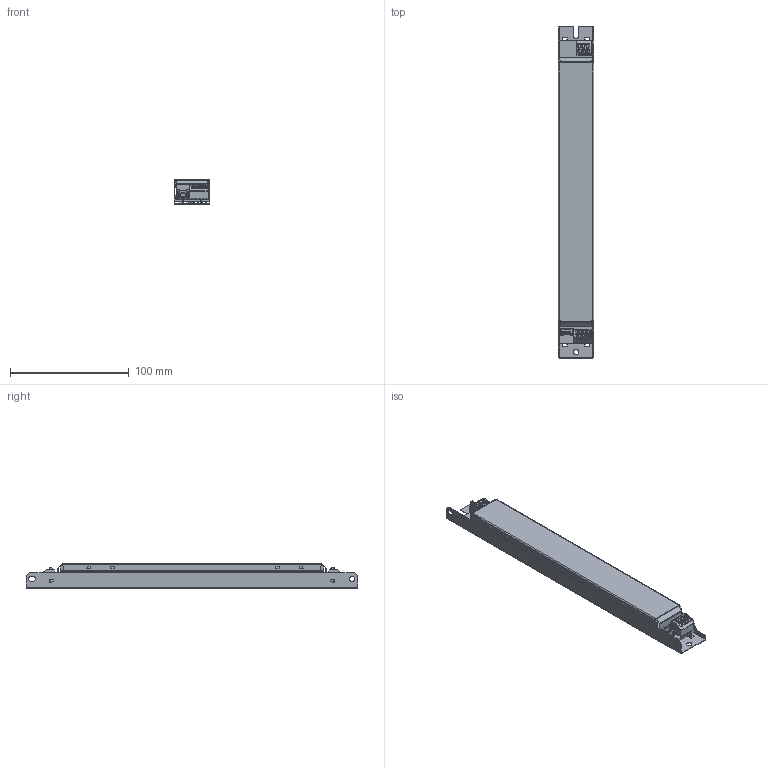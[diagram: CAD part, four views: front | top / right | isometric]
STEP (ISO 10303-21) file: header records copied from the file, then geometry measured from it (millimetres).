
FILE_DESCRIPTION(('FreeCAD Model'),'2;1');
FILE_NAME('H:/EB product maintenance/Project/3D mechanics/3D models Kari/Freedom/LL10-42 T5810/LL10-42-FD-120-350_.STEP', '2020-10-29T06:32:27',('Author'),(''), 'Open CASCADE STEP processor 7.3','FreeCAD','Unknown');
FILE_SCHEMA(('AUTOMOTIVE_DESIGN { 1 0 10303 214 1 1 1 1 }'));
Length unit declared in the file: millimetre
Products named in the file (19): LL10-42-FD-120-350; 7660113-1; PCB_256; WAGO_LIITIN_3N_250_203-1; KANSI_7660114-1; LIPARE001; MirrorLIPARE001; 4n; 353620450; LIPARE; MirrorLIPARE
Assembly tree (10 placements, depth 2):
  LL10-42-FD-120-350
    7660113-1
    PCB_256
    WAGO_LIITIN_3N_250_203-1
    KANSI_7660114-1
    LIPARE001  x2
    MirrorLIPARE001  x2
    4n
    353620450
  7660113-1
  PCB_256
  WAGO_LIITIN_3N_250_203-1
  KANSI_7660114-1
Bounding box: 30.08 x 280 x 20.8 mm (x, y, z)
Volume: 57773.9 mm3; surface area: 148654.6 mm2
Topology: 20 solids, 20 shells, 1928 faces, 5212 edges, 3366 vertices
Faces by surface type: plane 1378, cylinder 466, bspline 56, cone 28
Entity records: 133055 total; most frequent: CARTESIAN_POINT 30917, DIRECTION 18562, LINE 12892, VECTOR 12892, ORIENTED_EDGE 10280, PCURVE 10280, DEFINITIONAL_REPRESENTATION 10280, EDGE_CURVE 5140
